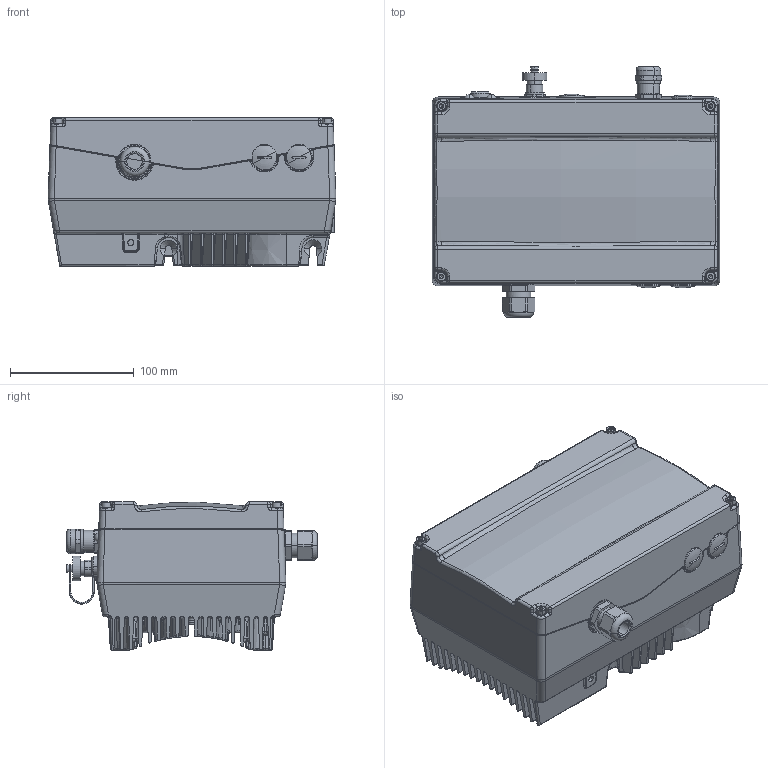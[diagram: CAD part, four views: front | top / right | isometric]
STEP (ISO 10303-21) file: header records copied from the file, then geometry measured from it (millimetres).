
FILE_DESCRIPTION(('CATIA V5 STEP 214'),'2;1');
FILE_NAME('C:\Temp\ddxv6\123204\INVEOR BG-A INTERNETDATEN 03.12.10.stp','2010-12-06T17:02:21+00:00',('Leopold Kostal'),('Kostal GmbH'),'CATIA Version 5 Release 19 SP 8 (IN-10)','CATIA V5 STEP AP214','none');
FILE_SCHEMA(('AUTOMOTIVE_DESIGN { 1 0 10303 214 1 1 1 1 }'));
Length unit declared in the file: millimetre
Products named in the file (1): 10007387-1-0008A_AllCATPart
Bounding box: 232.93 x 203 x 120 mm (x, y, z)
Volume: 3699299 mm3; surface area: 372939.7 mm2
Topology: 40 solids, 47 shells, 4454 faces, 11206 edges, 6828 vertices
Faces by surface type: plane 1775, cylinder 1070, bspline 824, torus 382, cone 246, extrusion 115, sphere 42
Entity records: 200468 total; most frequent: CARTESIAN_POINT 108727, ORIENTED_EDGE 22052, DIRECTION 12873, EDGE_CURVE 11032, VERTEX_POINT 6828, AXIS2_PLACEMENT_3D 5573, EDGE_LOOP 4668, VECTOR 4472
